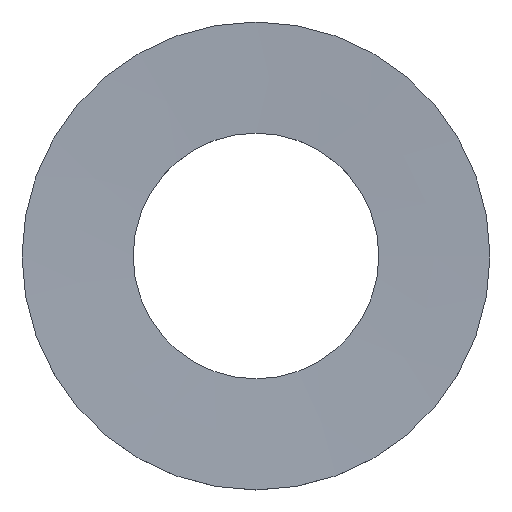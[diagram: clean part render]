
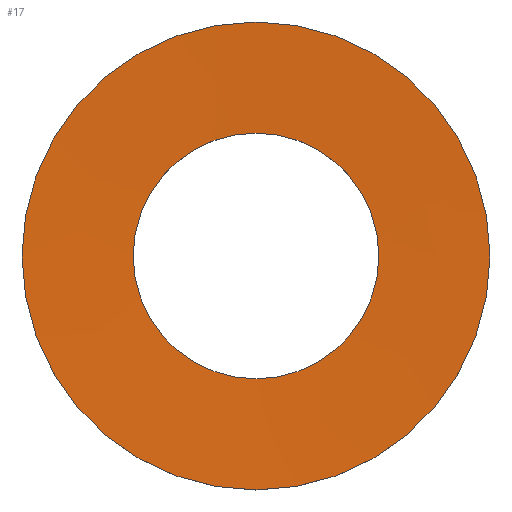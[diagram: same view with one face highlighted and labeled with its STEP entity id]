
A CAD part, top view. The second image highlights one B-rep face of the part: STEP entity #17.
In plain terms, the highlighted conical face has half-angle 88.493 degrees and reference radius 2.1 mm.
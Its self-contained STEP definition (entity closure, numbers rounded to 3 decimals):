
#17 = ADVANCED_FACE('',(#18),#31,.F.);
#18 = FACE_BOUND('',#19,.F.);
#19 = EDGE_LOOP('',(#20,#54,#77,#104));
#20 = ORIENTED_EDGE('',*,*,#21,.T.);
#21 = EDGE_CURVE('',#22,#22,#24,.T.);
#22 = VERTEX_POINT('',#23);
#23 = CARTESIAN_POINT('',(2.1,0.,-5.5));
#24 = SURFACE_CURVE('',#25,(#30,#42),.PCURVE_S1.);
#25 = CIRCLE('',#26,2.1);
#26 = AXIS2_PLACEMENT_3D('',#27,#28,#29);
#27 = CARTESIAN_POINT('',(0.,0.,-5.5));
#28 = DIRECTION('',(0.,0.,1.));
#29 = DIRECTION('',(1.,0.,-0.));
#30 = PCURVE('',#31,#36);
#31 = CONICAL_SURFACE('',#32,2.1,1.544);
#32 = AXIS2_PLACEMENT_3D('',#33,#34,#35);
#33 = CARTESIAN_POINT('',(0.,0.,-5.5));
#34 = DIRECTION('',(0.,0.,1.));
#35 = DIRECTION('',(1.,0.,-0.));
#36 = DEFINITIONAL_REPRESENTATION('',(#37),#41);
#37 = LINE('',#38,#39);
#38 = CARTESIAN_POINT('',(0.,0.));
#39 = VECTOR('',#40,1.);
#40 = DIRECTION('',(1.,0.));
#41 = ( GEOMETRIC_REPRESENTATION_CONTEXT(2) 
PARAMETRIC_REPRESENTATION_CONTEXT() REPRESENTATION_CONTEXT('2D SPACE',''
  ) );
#42 = PCURVE('',#43,#48);
#43 = CYLINDRICAL_SURFACE('',#44,2.1);
#44 = AXIS2_PLACEMENT_3D('',#45,#46,#47);
#45 = CARTESIAN_POINT('',(0.,0.,-5.9));
#46 = DIRECTION('',(0.,0.,1.));
#47 = DIRECTION('',(1.,0.,-0.));
#48 = DEFINITIONAL_REPRESENTATION('',(#49),#53);
#49 = LINE('',#50,#51);
#50 = CARTESIAN_POINT('',(0.,0.4));
#51 = VECTOR('',#52,1.);
#52 = DIRECTION('',(1.,0.));
#53 = ( GEOMETRIC_REPRESENTATION_CONTEXT(2) 
PARAMETRIC_REPRESENTATION_CONTEXT() REPRESENTATION_CONTEXT('2D SPACE',''
  ) );
#54 = ORIENTED_EDGE('',*,*,#55,.T.);
#55 = EDGE_CURVE('',#22,#56,#58,.T.);
#56 = VERTEX_POINT('',#57);
#57 = CARTESIAN_POINT('',(4.,0.,-5.45));
#58 = SEAM_CURVE('',#59,(#63,#70),.PCURVE_S1.);
#59 = LINE('',#60,#61);
#60 = CARTESIAN_POINT('',(2.1,0.,-5.5));
#61 = VECTOR('',#62,1.);
#62 = DIRECTION('',(1.,0.,0.026));
#63 = PCURVE('',#31,#64);
#64 = DEFINITIONAL_REPRESENTATION('',(#65),#69);
#65 = LINE('',#66,#67);
#66 = CARTESIAN_POINT('',(0.,0.));
#67 = VECTOR('',#68,1.);
#68 = DIRECTION('',(0.,1.));
#69 = ( GEOMETRIC_REPRESENTATION_CONTEXT(2) 
PARAMETRIC_REPRESENTATION_CONTEXT() REPRESENTATION_CONTEXT('2D SPACE',''
  ) );
#70 = PCURVE('',#31,#71);
#71 = DEFINITIONAL_REPRESENTATION('',(#72),#76);
#72 = LINE('',#73,#74);
#73 = CARTESIAN_POINT('',(6.283,0.));
#74 = VECTOR('',#75,1.);
#75 = DIRECTION('',(0.,1.));
#76 = ( GEOMETRIC_REPRESENTATION_CONTEXT(2) 
PARAMETRIC_REPRESENTATION_CONTEXT() REPRESENTATION_CONTEXT('2D SPACE',''
  ) );
#77 = ORIENTED_EDGE('',*,*,#78,.F.);
#78 = EDGE_CURVE('',#56,#56,#79,.T.);
#79 = SURFACE_CURVE('',#80,(#85,#92),.PCURVE_S1.);
#80 = CIRCLE('',#81,4.);
#81 = AXIS2_PLACEMENT_3D('',#82,#83,#84);
#82 = CARTESIAN_POINT('',(0.,0.,-5.45));
#83 = DIRECTION('',(0.,0.,1.));
#84 = DIRECTION('',(1.,0.,-0.));
#85 = PCURVE('',#31,#86);
#86 = DEFINITIONAL_REPRESENTATION('',(#87),#91);
#87 = LINE('',#88,#89);
#88 = CARTESIAN_POINT('',(0.,0.05));
#89 = VECTOR('',#90,1.);
#90 = DIRECTION('',(1.,0.));
#91 = ( GEOMETRIC_REPRESENTATION_CONTEXT(2) 
PARAMETRIC_REPRESENTATION_CONTEXT() REPRESENTATION_CONTEXT('2D SPACE',''
  ) );
#92 = PCURVE('',#93,#98);
#93 = CYLINDRICAL_SURFACE('',#94,4.);
#94 = AXIS2_PLACEMENT_3D('',#95,#96,#97);
#95 = CARTESIAN_POINT('',(0.,0.,-5.45));
#96 = DIRECTION('',(-0.,-0.,-1.));
#97 = DIRECTION('',(1.,0.,0.));
#98 = DEFINITIONAL_REPRESENTATION('',(#99),#103);
#99 = LINE('',#100,#101);
#100 = CARTESIAN_POINT('',(-0.,0.));
#101 = VECTOR('',#102,1.);
#102 = DIRECTION('',(-1.,0.));
#103 = ( GEOMETRIC_REPRESENTATION_CONTEXT(2) 
PARAMETRIC_REPRESENTATION_CONTEXT() REPRESENTATION_CONTEXT('2D SPACE',''
  ) );
#104 = ORIENTED_EDGE('',*,*,#55,.F.);
